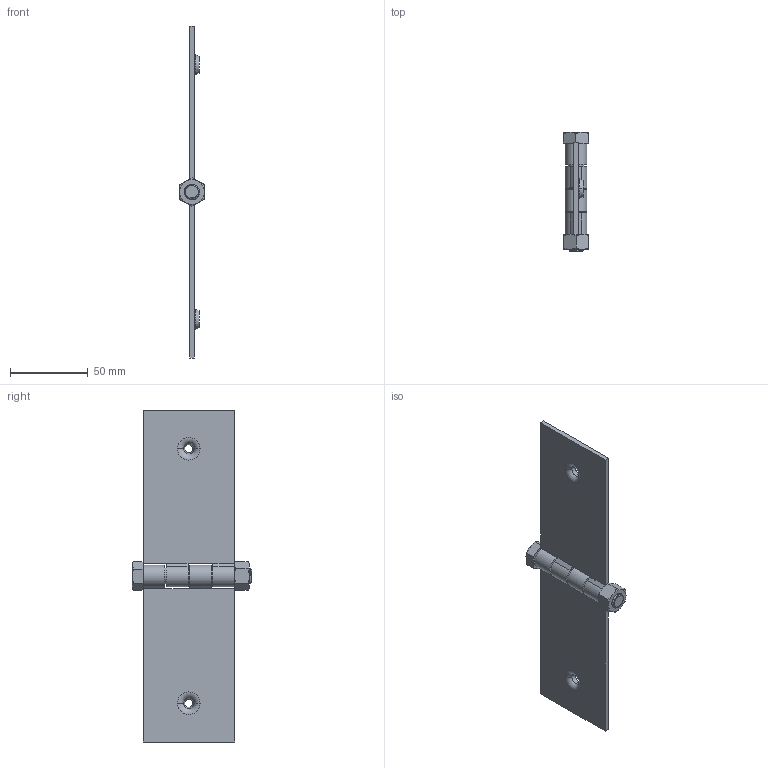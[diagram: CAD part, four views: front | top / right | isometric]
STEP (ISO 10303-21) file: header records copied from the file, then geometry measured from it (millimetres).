
FILE_DESCRIPTION (( 'STEP AP203' ), '1' );
FILE_NAME ('N1 HS.STEP', '2024-09-04T21:53:34', ( '' ), ( '' ), 'SwSTEP 2.0', 'SolidWorks 2023', '' );
FILE_SCHEMA (( 'CONFIG_CONTROL_DESIGN' ));
Length unit declared in the file: millimetre
Products named in the file (5): N1 HS; HexNut_M10; HexScr_M10x75.0; N1HS RH_Default<As Machined>; N1HS LH_Default<As Machined>
Assembly tree (4 placements, depth 2):
  N1 HS
    N1HS RH_Default<As Machined>
    N1HS LH_Default<As Machined>
    HexScr_M10x75.0
    HexNut_M10
Bounding box: 16.23 x 76.85 x 214.2 mm (x, y, z)
Volume: 48250.5 mm3; surface area: 36170 mm2
Topology: 12 solids, 12 shells, 568 faces, 1458 edges, 948 vertices
Faces by surface type: plane 344, bspline 91, cylinder 70, cone 55, torus 8
Entity records: 23486 total; most frequent: CARTESIAN_POINT 9894, ORIENTED_EDGE 2916, DIRECTION 2301, EDGE_CURVE 1458, VECTOR 1041, LINE 1041, VERTEX_POINT 948, AXIS2_PLACEMENT_3D 630
